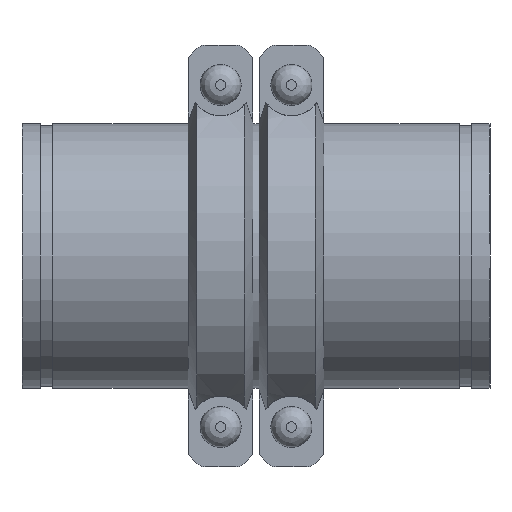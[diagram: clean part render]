
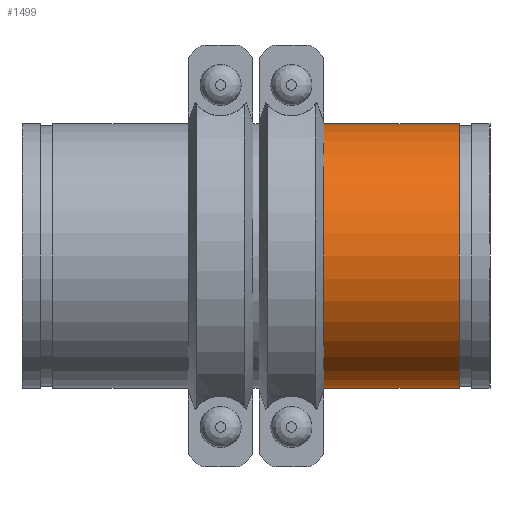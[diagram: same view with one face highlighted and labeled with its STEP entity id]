
A CAD part, front view. The second image highlights one B-rep face of the part: STEP entity #1499.
In plain terms, the highlighted cylindrical face has radius 136.525 mm (diameter 273.05 mm), a full revolution.
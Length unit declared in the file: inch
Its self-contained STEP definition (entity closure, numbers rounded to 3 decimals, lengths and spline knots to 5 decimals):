
#71=LINE('',#2387,#160);
#160=VECTOR('',#1932,5.375);
#249=CYLINDRICAL_SURFACE('',#1710,5.375);
#310=FACE_OUTER_BOUND('',#399,.T.);
#399=EDGE_LOOP('',(#980,#981,#982,#983,#984,#985));
#513=CIRCLE('',#1708,5.375);
#514=CIRCLE('',#1709,5.375);
#515=CIRCLE('',#1711,5.375);
#516=CIRCLE('',#1712,5.375);
#609=VERTEX_POINT('',#2378);
#610=VERTEX_POINT('',#2379);
#611=VERTEX_POINT('',#2383);
#612=VERTEX_POINT('',#2384);
#758=EDGE_CURVE('',#609,#610,#513,.T.);
#759=EDGE_CURVE('',#610,#609,#514,.T.);
#760=EDGE_CURVE('',#611,#612,#515,.T.);
#761=EDGE_CURVE('',#612,#611,#516,.T.);
#762=EDGE_CURVE('',#612,#610,#71,.T.);
#980=ORIENTED_EDGE('',*,*,#760,.F.);
#981=ORIENTED_EDGE('',*,*,#761,.F.);
#982=ORIENTED_EDGE('',*,*,#762,.T.);
#983=ORIENTED_EDGE('',*,*,#759,.T.);
#984=ORIENTED_EDGE('',*,*,#758,.T.);
#985=ORIENTED_EDGE('',*,*,#762,.F.);
#1499=ADVANCED_FACE('',(#310),#249,.T.);
#1708=AXIS2_PLACEMENT_3D('',#2380,#1922,#1923);
#1709=AXIS2_PLACEMENT_3D('',#2381,#1924,#1925);
#1710=AXIS2_PLACEMENT_3D('',#2382,#1926,#1927);
#1711=AXIS2_PLACEMENT_3D('',#2385,#1928,#1929);
#1712=AXIS2_PLACEMENT_3D('',#2386,#1930,#1931);
#1922=DIRECTION('center_axis',(-1.,0.,0.));
#1923=DIRECTION('ref_axis',(0.,0.,1.));
#1924=DIRECTION('center_axis',(-1.,0.,0.));
#1925=DIRECTION('ref_axis',(0.,0.,1.));
#1926=DIRECTION('center_axis',(-1.,0.,0.));
#1927=DIRECTION('ref_axis',(0.,1.,0.));
#1928=DIRECTION('center_axis',(-1.,0.,0.));
#1929=DIRECTION('ref_axis',(0.,0.,1.));
#1930=DIRECTION('center_axis',(-1.,0.,0.));
#1931=DIRECTION('ref_axis',(0.,0.,1.));
#1932=DIRECTION('',(1.,0.,0.));
#2378=CARTESIAN_POINT('',(2.75,5.375,0.));
#2379=CARTESIAN_POINT('',(2.75,-5.375,0.));
#2380=CARTESIAN_POINT('Origin',(2.75,0.,0.));
#2381=CARTESIAN_POINT('Origin',(2.75,0.,0.));
#2382=CARTESIAN_POINT('Origin',(0.,0.,
0.));
#2383=CARTESIAN_POINT('',(-2.75,5.375,0.));
#2384=CARTESIAN_POINT('',(-2.75,-5.375,0.));
#2385=CARTESIAN_POINT('Origin',(-2.75,0.,0.));
#2386=CARTESIAN_POINT('Origin',(-2.75,0.,0.));
#2387=CARTESIAN_POINT('',(0.,-5.375,0.));
